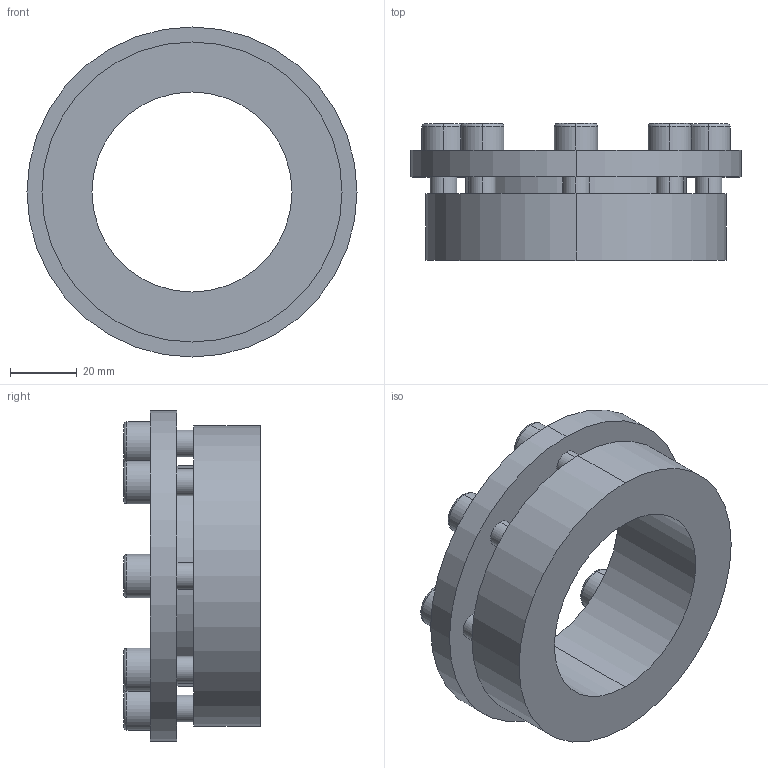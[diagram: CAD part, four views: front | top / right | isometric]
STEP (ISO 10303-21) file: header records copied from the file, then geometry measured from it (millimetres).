
FILE_DESCRIPTION (( 'STEP AP203' ), '1' );
FILE_NAME ('PL-H6 60-90.STEP', '2021-10-23T01:37:13', ( '' ), ( '' ), 'SwSTEP 2.0', 'SolidWorks 2018', '' );
FILE_SCHEMA (( 'CONFIG_CONTROL_DESIGN' ));
Length unit declared in the file: millimetre
Products named in the file (1): PL-H6 60-90
Bounding box: 99 x 41 x 99 mm (x, y, z)
Volume: 122056.8 mm3; surface area: 34357.8 mm2
Topology: 1 solids, 1 shells, 124 faces, 296 edges, 192 vertices
Faces by surface type: plane 68, cylinder 40, torus 16
Entity records: 3717 total; most frequent: DIRECTION 658, CARTESIAN_POINT 613, ORIENTED_EDGE 592, EDGE_CURVE 296, AXIS2_PLACEMENT_3D 237, VERTEX_POINT 192, VECTOR 184, LINE 184
